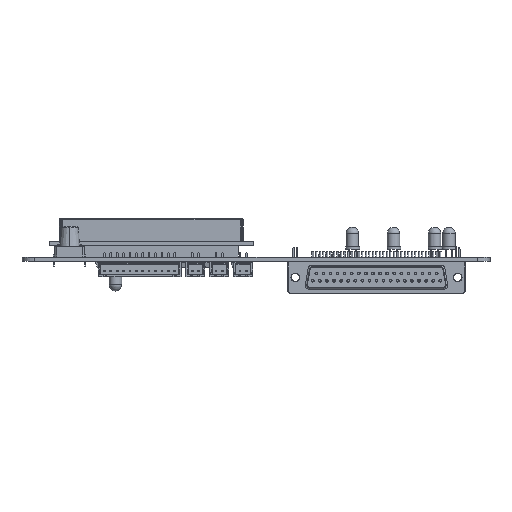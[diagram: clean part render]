
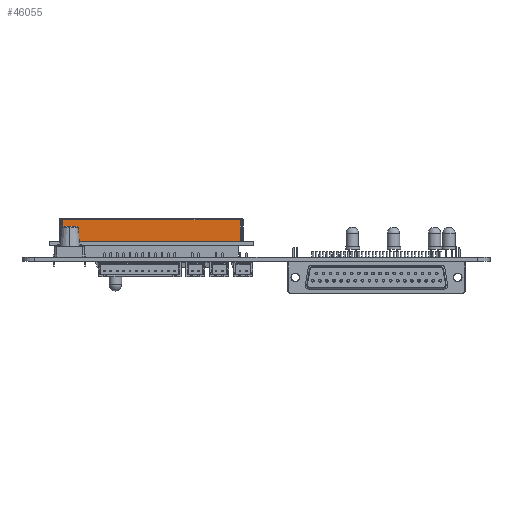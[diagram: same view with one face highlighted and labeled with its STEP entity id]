
A CAD part, front view. The second image highlights one B-rep face of the part: STEP entity #46055.
In plain terms, the highlighted planar face has unit normal (0, -1, 0).
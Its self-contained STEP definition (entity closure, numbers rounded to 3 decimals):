
#39655 = PLANE('',#39656);
#39656 = AXIS2_PLACEMENT_3D('',#39657,#39658,#39659);
#39657 = CARTESIAN_POINT('',(32.,-15.5,6.));
#39658 = DIRECTION('',(0.,0.,-1.));
#39659 = DIRECTION('',(-1.,0.,0.));
#41779 = VERTEX_POINT('',#41780);
#41780 = CARTESIAN_POINT('',(66.7,-28.,6.));
#41801 = CYLINDRICAL_SURFACE('',#41802,0.4);
#41802 = AXIS2_PLACEMENT_3D('',#41803,#41804,#41805);
#41803 = CARTESIAN_POINT('',(66.7,-27.6,15.));
#41804 = DIRECTION('',(0.,0.,-1.));
#41805 = DIRECTION('',(0.,-1.,0.));
#42304 = VERTEX_POINT('',#42305);
#42305 = CARTESIAN_POINT('',(-2.7,-28.,6.));
#42320 = CYLINDRICAL_SURFACE('',#42321,0.4);
#42321 = AXIS2_PLACEMENT_3D('',#42322,#42323,#42324);
#42322 = CARTESIAN_POINT('',(-2.7,-27.6,14.6));
#42323 = DIRECTION('',(0.,0.,-1.));
#42324 = DIRECTION('',(0.,-1.,0.));
#42332 = EDGE_CURVE('',#42304,#41779,#42333,.T.);
#42333 = SURFACE_CURVE('',#42334,(#42338,#42345),.PCURVE_S1.);
#42334 = LINE('',#42335,#42336);
#42335 = CARTESIAN_POINT('',(-4.,-28.,6.));
#42336 = VECTOR('',#42337,1.);
#42337 = DIRECTION('',(1.,0.,0.));
#42338 = PCURVE('',#39655,#42339);
#42339 = DEFINITIONAL_REPRESENTATION('',(#42340),#42344);
#42340 = LINE('',#42341,#42342);
#42341 = CARTESIAN_POINT('',(36.,-12.5));
#42342 = VECTOR('',#42343,1.);
#42343 = DIRECTION('',(-1.,0.));
#42344 = ( GEOMETRIC_REPRESENTATION_CONTEXT(2) 
PARAMETRIC_REPRESENTATION_CONTEXT() REPRESENTATION_CONTEXT('2D SPACE',''
  ) );
#42345 = PCURVE('',#42346,#42351);
#42346 = PLANE('',#42347);
#42347 = AXIS2_PLACEMENT_3D('',#42348,#42349,#42350);
#42348 = CARTESIAN_POINT('',(-4.,-28.,6.));
#42349 = DIRECTION('',(0.,1.,0.));
#42350 = DIRECTION('',(0.,0.,1.));
#42351 = DEFINITIONAL_REPRESENTATION('',(#42352),#42356);
#42352 = LINE('',#42353,#42354);
#42353 = CARTESIAN_POINT('',(0.,0.));
#42354 = VECTOR('',#42355,1.);
#42355 = DIRECTION('',(0.,1.));
#42356 = ( GEOMETRIC_REPRESENTATION_CONTEXT(2) 
PARAMETRIC_REPRESENTATION_CONTEXT() REPRESENTATION_CONTEXT('2D SPACE',''
  ) );
#45938 = EDGE_CURVE('',#45939,#41779,#45941,.T.);
#45939 = VERTEX_POINT('',#45940);
#45940 = CARTESIAN_POINT('',(66.7,-28.,14.6));
#45941 = SURFACE_CURVE('',#45942,(#45946,#45953),.PCURVE_S1.);
#45942 = LINE('',#45943,#45944);
#45943 = CARTESIAN_POINT('',(66.7,-28.,15.));
#45944 = VECTOR('',#45945,1.);
#45945 = DIRECTION('',(0.,0.,-1.));
#45946 = PCURVE('',#41801,#45947);
#45947 = DEFINITIONAL_REPRESENTATION('',(#45948),#45952);
#45948 = LINE('',#45949,#45950);
#45949 = CARTESIAN_POINT('',(6.283,0.));
#45950 = VECTOR('',#45951,1.);
#45951 = DIRECTION('',(0.,1.));
#45952 = ( GEOMETRIC_REPRESENTATION_CONTEXT(2) 
PARAMETRIC_REPRESENTATION_CONTEXT() REPRESENTATION_CONTEXT('2D SPACE',''
  ) );
#45953 = PCURVE('',#42346,#45954);
#45954 = DEFINITIONAL_REPRESENTATION('',(#45955),#45959);
#45955 = LINE('',#45956,#45957);
#45956 = CARTESIAN_POINT('',(9.,70.7));
#45957 = VECTOR('',#45958,1.);
#45958 = DIRECTION('',(-1.,0.));
#45959 = ( GEOMETRIC_REPRESENTATION_CONTEXT(2) 
PARAMETRIC_REPRESENTATION_CONTEXT() REPRESENTATION_CONTEXT('2D SPACE',''
  ) );
#46022 = CYLINDRICAL_SURFACE('',#46023,0.4);
#46023 = AXIS2_PLACEMENT_3D('',#46024,#46025,#46026);
#46024 = CARTESIAN_POINT('',(-3.1,-27.6,14.6));
#46025 = DIRECTION('',(1.,0.,0.));
#46026 = DIRECTION('',(0.,0.,1.));
#46055 = ADVANCED_FACE('',(#46056),#42346,.F.);
#46056 = FACE_BOUND('',#46057,.F.);
#46057 = EDGE_LOOP('',(#46058,#46059,#46082,#46103));
#46058 = ORIENTED_EDGE('',*,*,#42332,.F.);
#46059 = ORIENTED_EDGE('',*,*,#46060,.F.);
#46060 = EDGE_CURVE('',#46061,#42304,#46063,.T.);
#46061 = VERTEX_POINT('',#46062);
#46062 = CARTESIAN_POINT('',(-2.7,-28.,14.6));
#46063 = SURFACE_CURVE('',#46064,(#46068,#46075),.PCURVE_S1.);
#46064 = LINE('',#46065,#46066);
#46065 = CARTESIAN_POINT('',(-2.7,-28.,14.6));
#46066 = VECTOR('',#46067,1.);
#46067 = DIRECTION('',(0.,0.,-1.));
#46068 = PCURVE('',#42346,#46069);
#46069 = DEFINITIONAL_REPRESENTATION('',(#46070),#46074);
#46070 = LINE('',#46071,#46072);
#46071 = CARTESIAN_POINT('',(8.6,1.3));
#46072 = VECTOR('',#46073,1.);
#46073 = DIRECTION('',(-1.,0.));
#46074 = ( GEOMETRIC_REPRESENTATION_CONTEXT(2) 
PARAMETRIC_REPRESENTATION_CONTEXT() REPRESENTATION_CONTEXT('2D SPACE',''
  ) );
#46075 = PCURVE('',#42320,#46076);
#46076 = DEFINITIONAL_REPRESENTATION('',(#46077),#46081);
#46077 = LINE('',#46078,#46079);
#46078 = CARTESIAN_POINT('',(0.,0.));
#46079 = VECTOR('',#46080,1.);
#46080 = DIRECTION('',(0.,1.));
#46081 = ( GEOMETRIC_REPRESENTATION_CONTEXT(2) 
PARAMETRIC_REPRESENTATION_CONTEXT() REPRESENTATION_CONTEXT('2D SPACE',''
  ) );
#46082 = ORIENTED_EDGE('',*,*,#46083,.T.);
#46083 = EDGE_CURVE('',#46061,#45939,#46084,.T.);
#46084 = SURFACE_CURVE('',#46085,(#46089,#46096),.PCURVE_S1.);
#46085 = LINE('',#46086,#46087);
#46086 = CARTESIAN_POINT('',(-3.1,-28.,14.6));
#46087 = VECTOR('',#46088,1.);
#46088 = DIRECTION('',(1.,0.,0.));
#46089 = PCURVE('',#42346,#46090);
#46090 = DEFINITIONAL_REPRESENTATION('',(#46091),#46095);
#46091 = LINE('',#46092,#46093);
#46092 = CARTESIAN_POINT('',(8.6,0.9));
#46093 = VECTOR('',#46094,1.);
#46094 = DIRECTION('',(0.,1.));
#46095 = ( GEOMETRIC_REPRESENTATION_CONTEXT(2) 
PARAMETRIC_REPRESENTATION_CONTEXT() REPRESENTATION_CONTEXT('2D SPACE',''
  ) );
#46096 = PCURVE('',#46022,#46097);
#46097 = DEFINITIONAL_REPRESENTATION('',(#46098),#46102);
#46098 = LINE('',#46099,#46100);
#46099 = CARTESIAN_POINT('',(1.571,0.));
#46100 = VECTOR('',#46101,1.);
#46101 = DIRECTION('',(0.,1.));
#46102 = ( GEOMETRIC_REPRESENTATION_CONTEXT(2) 
PARAMETRIC_REPRESENTATION_CONTEXT() REPRESENTATION_CONTEXT('2D SPACE',''
  ) );
#46103 = ORIENTED_EDGE('',*,*,#45938,.T.);
